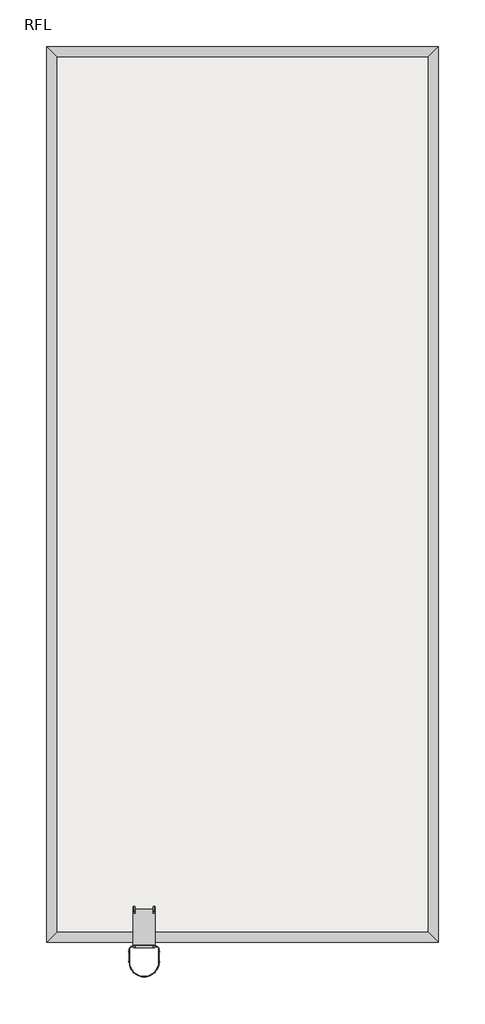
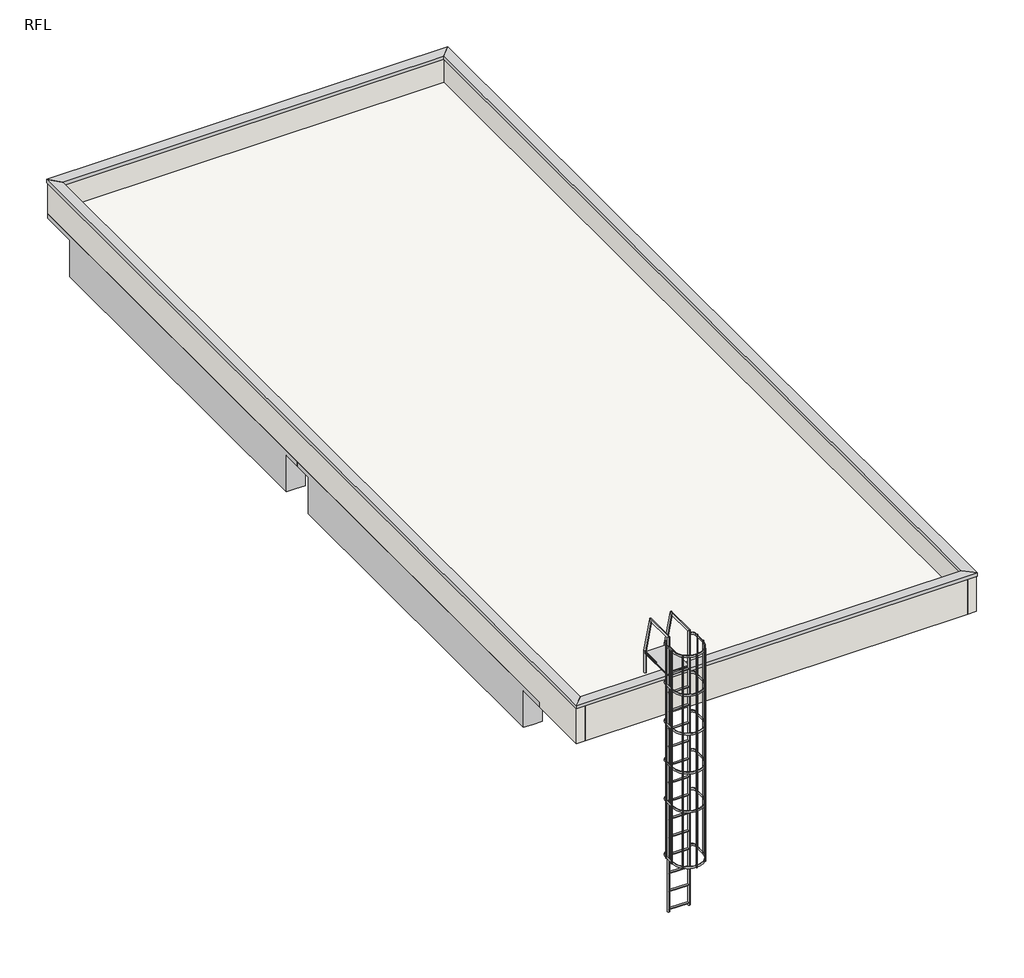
# One storey: 10 beams, 4 walls, 2 proxies, 2 slabs.
"""IFC4 building model written with IfcOpenShell, lengths in millimetres."""

from ifc_helpers import new_model, si_unit, frame, origin, place, context, project, spatial, polyline, outline, extrude, faceted_brep, transform, mapped, element, save
from components import generic_models_01cd3eca

model = new_model("IFC4")

# Units and contexts
model_context = context("Model", 3, world=origin())
ifc_project = project(units=[si_unit("LENGTHUNIT", "METRE", prefix="MILLI")], contexts=[model_context])

# Site, building, storey
site = spatial("IfcSite", under=ifc_project)
building = spatial("IfcBuilding", under=site)
storey = spatial("IfcBuildingStorey", under=building, Name="RFL", Elevation=20750.0)

# Beams
placement = place(None, origin())
element("IfcBeam", 1, ObjectType="営_RC梁 : PHRG2 350*750", at=placement, inside=storey, context=model_context, shape_type="SweptSolid", body=[
    extrude(outline(polyline([(32420.0, 7825.0000006), (32420.0, 7630.0), (32325.0, 7630.0), (32325.0, 7825.0000006), (32420.0, 7825.0000006)])), frame((0.0, 0.0, 20650.0), z_axis=(0.0, 0.0, 1.0), x_axis=(1.0, 0.0, 0.0)), (0.0, 0.0, 1.0), 100.0),
    extrude(outline(polyline([(25370.0, 7630.0), (25370.0, 8000.0), (31680.0, 8000.0), (31680.0, 7630.0), (25370.0, 7630.0)])), frame((0.0, 0.0, 19900.0), z_axis=(0.0, 0.0, 1.0), x_axis=(1.0, 0.0, 0.0)), (0.0, 0.0, 1.0), 700.0),
])
element("IfcBeam", 2, ObjectType="営_RC梁 : PHRG1 350*750", at=placement, inside=storey, context=model_context, shape_type="Brep", body=[
    faceted_brep([(31999.9999994, 24420.0, 20650.0), (31999.9999994, 24420.0, 20750.0), (31999.9999994, 24325.0, 20750.0), (31999.9999994, 24325.0, 20650.0), (25000.0000006, 24420.0, 20750.0), (25000.0000006, 24420.0, 20650.0), (25000.0000006, 24325.0, 20650.0), (25000.0000006, 24325.0, 20750.0), (25370.0, 24050.0, 19900.0), (28046.0, 24050.0, 19900.0), (28396.0, 24050.0, 19900.0), (31680.0, 24050.0, 19900.0), (31680.0, 24050.0, 20600.0), (28396.0, 24050.0, 20600.0), (28046.0, 24050.0, 20600.0), (25370.0, 24050.0, 20600.0), (31680.0, 24420.0, 19900.0), (31680.0, 24250.0, 19900.0), (25370.0, 24250.0, 19900.0), (25370.0, 24420.0, 19900.0), (31680.0, 24420.0, 20650.0), (25370.0, 24420.0, 20650.0), (31680.0, 24325.0, 20650.0), (31680.0, 24325.0, 20600.0), (25370.0, 24325.0, 20600.0), (25370.0, 24325.0, 20650.0)], [[[0, 1, 2, 3]], [[4, 5, 6, 7]], [[8, 9, 10, 11, 12, 13, 14, 15]], [[16, 17, 11, 10, 9, 8, 18, 19]], [[4, 1, 0, 20, 16, 19, 21, 5]], [[1, 4, 7, 2]], [[11, 17, 16, 20, 22, 23, 12]], [[20, 0, 3, 22]], [[19, 18, 8, 15, 24, 25, 21]], [[5, 21, 25, 6]], [[23, 24, 15, 14, 13, 12]], [[24, 23, 22, 3, 2, 7, 6, 25]]]),
])
element("IfcBeam", 3, ObjectType="営_RC梁 : PHRG12 350*750", at=placement, inside=storey, context=model_context, shape_type="Brep", body=[
    faceted_brep([(25000.0, 15630.0, 19900.0), (25000.0, 15630.0, 20600.0), (25000.0, 15630.0, 20650.0), (25000.0, 16000.0, 20650.0), (25000.0, 16000.0, 20750.0), (25000.0, 7825.0, 20750.0), (25000.0, 7825.0, 20650.0), (25000.0, 8370.0, 20650.0), (25000.0, 8370.0, 20600.0), (25000.0, 8370.0, 20500.0), (25000.0, 8370.0, 19900.0), (25000.0, 8430.0, 19900.0), (25000.0, 10575.0, 19900.0), (25000.0, 10925.0, 19900.0), (25000.0, 13325.0, 19900.0), (25000.0, 13675.0, 19900.0), (24630.0, 15630.0, 19900.0), (24800.0, 15630.0, 19900.0), (24800.0, 8370.0, 19900.0), (24630.0, 8370.0, 19900.0), (24630.0, 15630.0, 20650.0), (24630.0, 8370.0, 20650.0), (24630.0, 7825.0, 20650.0), (24630.0, 7825.0, 20750.0), (24630.0, 16000.0, 20750.0), (24630.0, 16000.0, 20650.0), (24715.0, 16000.0, 20750.0), (24715.0, 7825.0, 20750.0), (24800.0, 7825.0, 20750.0), (24715.0, 16000.0, 20650.0), (24800.0, 7825.0, 20650.0), (24715.0, 7825.0, 20650.0)], [[[0, 1, 2, 3, 4, 5, 6, 7, 8, 9, 10, 11, 12, 13, 14, 15]], [[16, 17, 0, 15, 14, 13, 12, 11, 10, 18, 19]], [[20, 16, 19, 21, 22, 23, 24, 25]], [[5, 4, 26, 24, 23, 27, 28]], [[20, 2, 1, 0, 17, 16]], [[2, 20, 25, 29, 3]], [[7, 21, 19, 18, 10, 9, 8]], [[21, 7, 6, 30, 31, 22]], [[24, 26, 4, 3, 29, 25]], [[5, 28, 27, 23, 22, 31, 30, 6]]]),
])
element("IfcBeam", 4, ObjectType="営_RC梁 : PHRG12 350*750", at=placement, inside=storey, context=model_context, shape_type="Brep", body=[
    faceted_brep([(25000.0, 24420.0, 20650.0), (25000.0, 24420.0, 20750.0), (25000.0, 24325.0, 20750.0), (25000.0, 24325.0, 20650.0), (25000.0, 16370.0, 19900.0), (24800.0, 16370.0, 19900.0), (24630.0, 16370.0, 19900.0), (24630.0, 23680.0, 19900.0), (24800.0, 23680.0, 19900.0), (25000.0, 23680.0, 19900.0), (24630.0, 16370.0, 20650.0), (24630.0, 16000.0, 20650.0), (24630.0, 16000.0, 20750.0), (24630.0, 24420.0, 20750.0), (24630.0, 24420.0, 20650.0), (24630.0, 23680.0, 20650.0), (24800.0, 24420.0, 20750.0), (24715.0, 16000.0, 20750.0), (24715.0, 24325.0, 20750.0), (25000.0, 16370.0, 20600.0), (24715.0, 16370.0, 20600.0), (24715.0, 16370.0, 20650.0), (24715.0, 16000.0, 20650.0), (24715.0, 23680.0, 20650.0), (24715.0, 23680.0, 20600.0), (25000.0, 23680.0, 20600.0), (24715.0, 24325.0, 20650.0)], [[[0, 1, 2, 3]], [[4, 5, 6, 7, 8, 9]], [[6, 10, 11, 12, 13, 14, 15, 7]], [[1, 16, 13, 12, 17, 18, 2]], [[13, 16, 1, 0, 14]], [[6, 5, 4, 19, 20, 21, 10]], [[11, 10, 21, 22]], [[9, 8, 7, 15, 23, 24, 25]], [[15, 14, 0, 3, 26, 23]], [[12, 11, 22, 17]], [[24, 20, 19, 25]], [[20, 24, 23, 26, 18, 17, 22, 21]], [[18, 26, 3, 2]], [[4, 9, 25, 19]]]),
])
element("IfcBeam", 5, ObjectType="営_RC梁 : PHRG11 350*750", at=placement, inside=storey, context=model_context, shape_type="Brep", body=[
    faceted_brep([(32420.0, 15824.9999994, 20750.0), (32420.0, 15824.9999994, 20650.0), (32325.0, 15824.9999994, 20650.0), (32325.0, 15824.9999994, 20750.0), (32420.0, 7825.0000006, 20650.0), (32420.0, 7825.0000006, 20750.0), (32325.0, 7825.0000006, 20750.0), (32325.0, 7825.0000006, 20650.0), (32420.0, 8370.0, 20650.0), (32420.0, 8370.0, 19900.0), (32420.0, 15630.0, 19900.0), (32420.0, 15630.0, 20650.0), (32050.0, 15630.0, 19900.0), (32250.0, 15630.0, 19900.0), (32250.0, 8370.0, 19900.0), (32050.0, 8370.0, 19900.0), (32050.0, 10575.0, 19900.0), (32050.0, 10925.0, 19900.0), (32050.0, 13325.0, 19900.0), (32050.0, 13675.0, 19900.0), (32050.0, 8370.0, 20600.0), (32050.0, 10575.0, 20600.0), (32050.0, 10925.0, 20600.0), (32050.0, 13325.0, 20600.0), (32050.0, 13675.0, 20600.0), (32050.0, 15630.0, 20600.0), (32325.0, 15630.0, 20600.0), (32325.0, 15630.0, 20650.0), (32325.0, 8370.0, 20650.0), (32325.0, 8370.0, 20600.0)], [[[0, 1, 2, 3]], [[4, 5, 6, 7]], [[0, 5, 4, 8, 9, 10, 11, 1]], [[12, 13, 10, 9, 14, 15, 16, 17, 18, 19]], [[12, 19, 18, 17, 16, 15, 20, 21, 22, 23, 24, 25]], [[5, 0, 3, 6]], [[10, 13, 12, 25, 26, 27, 11]], [[1, 11, 27, 2]], [[15, 14, 9, 8, 28, 29, 20]], [[8, 4, 7, 28]], [[29, 26, 25, 24, 23, 22, 21, 20]], [[26, 29, 28, 7, 6, 3, 2, 27]]]),
])
element("IfcBeam", 6, ObjectType="営_RC梁 : PHRG11 350*750", at=placement, inside=storey, context=model_context, shape_type="Brep", body=[
    faceted_brep([(32420.0, 23999.9999994, 20750.0), (32420.0, 23999.9999994, 20650.0), (32325.0, 23999.9999994, 20650.0), (32325.0, 23999.9999994, 20750.0), (32420.0, 16000.0, 20650.0), (32420.0, 16000.0, 20750.0), (32325.0, 16000.0, 20750.0), (32325.0, 16000.0, 20650.0), (32420.0, 16370.0, 20650.0), (32420.0, 16370.0, 19900.0), (32420.0, 23680.0, 19900.0), (32420.0, 23680.0, 20650.0), (32250.0, 16370.0, 19900.0), (32050.0, 16370.0, 19900.0), (32050.0, 23680.0, 19900.0), (32250.0, 23680.0, 19900.0), (32050.0, 16370.0, 20600.0), (32050.0, 23680.0, 20600.0), (32325.0, 16370.0, 20650.0), (32325.0, 16370.0, 20600.0), (32325.0, 23680.0, 20600.0), (32325.0, 23680.0, 20650.0)], [[[0, 1, 2, 3]], [[4, 5, 6, 7]], [[0, 5, 4, 8, 9, 10, 11, 1]], [[9, 12, 13, 14, 15, 10]], [[14, 13, 16, 17]], [[5, 0, 3, 6]], [[13, 12, 9, 8, 18, 19, 16]], [[8, 4, 7, 18]], [[10, 15, 14, 17, 20, 21, 11]], [[1, 11, 21, 2]], [[19, 20, 17, 16]], [[20, 19, 18, 7, 6, 3, 2, 21]]]),
])
element("IfcBeam", 7, ObjectType="営_RC梁 : B2 350*750", at=placement, inside=storey, context=model_context, shape_type="Brep", body=[
    faceted_brep([(25000.0, 10575.0, 19900.0), (25505.0, 10575.0, 19900.0), (25625.0, 10575.0, 19900.0), (32050.0, 10575.0, 19900.0), (32050.0, 10575.0, 20600.0), (25625.0, 10575.0, 20600.0), (25505.0, 10575.0, 20600.0), (25000.0, 10575.0, 20600.0), (25000.0, 10925.0, 19900.0), (25505.0, 10925.0, 19900.0), (25625.0, 10925.0, 19900.0), (32050.0, 10925.0, 19900.0), (25000.0, 10925.0, 20600.0), (25505.0, 10925.0, 20600.0), (25625.0, 10925.0, 20600.0), (32050.0, 10925.0, 20600.0)], [[[0, 1, 2, 3, 4, 5, 6, 7]], [[0, 8, 9, 10, 11, 3, 2, 1]], [[11, 10, 9, 8, 12, 13, 14, 15]], [[8, 0, 7, 12]], [[3, 11, 15, 4]], [[7, 6, 5, 4, 15, 14, 13, 12]]]),
])
element("IfcBeam", 8, ObjectType="営_RC梁 : B1 350*750", at=placement, inside=storey, context=model_context, shape_type="Brep", body=[
    faceted_brep([(25000.0, 13325.0, 19900.0), (25505.0, 13325.0, 19900.0), (25625.0, 13325.0, 19900.0), (32050.0, 13325.0, 19900.0), (32050.0, 13325.0, 20600.0), (25625.0, 13325.0, 20600.0), (25505.0, 13325.0, 20600.0), (25000.0, 13325.0, 20600.0), (25000.0, 13675.0, 19900.0), (25505.0, 13675.0, 19900.0), (25625.0, 13675.0, 19900.0), (32050.0, 13675.0, 19900.0), (25000.0, 13675.0, 20600.0), (25505.0, 13675.0, 20600.0), (25625.0, 13675.0, 20600.0), (32050.0, 13675.0, 20600.0)], [[[0, 1, 2, 3, 4, 5, 6, 7]], [[0, 8, 9, 10, 11, 3, 2, 1]], [[11, 10, 9, 8, 12, 13, 14, 15]], [[8, 0, 7, 12]], [[3, 11, 15, 4]], [[7, 6, 5, 4, 15, 14, 13, 12]]]),
])
element("IfcBeam", 9, ObjectType="営_RC梁 : PHRG2 350*750", at=placement, inside=storey, context=model_context, shape_type="Brep", body=[
    faceted_brep([(25370.0, 15630.0, 19900.0), (31680.0, 15630.0, 19900.0), (31680.0, 15630.0, 20600.0), (25370.0, 15630.0, 20600.0), (25370.0, 15780.0, 19900.0), (25370.0, 16000.0, 19900.0), (28046.0, 16000.0, 19900.0), (28396.0, 16000.0, 19900.0), (31680.0, 16000.0, 19900.0), (31680.0, 15780.0, 19900.0), (25370.0, 16000.0, 20600.0), (28046.0, 16000.0, 20600.0), (28396.0, 16000.0, 20600.0), (31680.0, 16000.0, 20600.0)], [[[0, 1, 2, 3]], [[0, 4, 5, 6, 7, 8, 9, 1]], [[8, 7, 6, 5, 10, 11, 12, 13]], [[5, 4, 0, 3, 10]], [[1, 9, 8, 13, 2]], [[3, 2, 13, 12, 11, 10]]]),
])
element("IfcBeam", 10, ObjectType="営_RC梁 : B4 350*750", at=placement, inside=storey, context=model_context, shape_type="Brep", body=[
    faceted_brep([(28396.0, 16000.0, 19900.0), (28396.0, 24050.0, 19900.0), (28396.0, 24050.0, 20600.0), (28396.0, 16000.0, 20600.0), (28046.0, 24050.0, 19900.0), (28046.0, 16000.0, 19900.0), (28046.0, 16975.0, 19900.0), (28046.0, 17095.0, 19900.0), (28046.0, 19575.0, 19900.0), (28046.0, 19695.0, 19900.0), (28046.0, 16000.0, 20600.0), (28046.0, 16975.0, 20600.0), (28046.0, 17095.0, 20600.0), (28046.0, 19575.0, 20600.0), (28046.0, 19695.0, 20600.0), (28046.0, 24050.0, 20600.0)], [[[0, 1, 2, 3]], [[4, 1, 0, 5, 6, 7, 8, 9]], [[4, 9, 8, 7, 6, 5, 10, 11, 12, 13, 14, 15]], [[1, 4, 15, 2]], [[5, 0, 3, 10]], [[3, 2, 15, 14, 13, 12, 11, 10]]]),
])

# Proxies
element("IfcBuildingElementProxy", 11, Name="パラペット笠木", ObjectType="パラペット笠木", at=placement, inside=storey, context=model_context, shape_type="Brep", body=[
    faceted_brep([(24615.0, 24435.0, 21380.0), (24615.0, 24435.0, 21450.0), (24815.0, 24235.0, 21440.1428571), (24815.0, 24235.0, 21375.0), (24800.0, 24250.0, 21375.0), (24800.0, 24250.0, 21400.0), (24630.0, 24420.0, 21400.0), (24630.0, 24420.0, 21380.0), (24615.0, 6565.0, 21380.0), (24630.0, 6580.0, 21380.0), (24630.0, 6580.0, 21400.0), (24800.0, 6750.0, 21400.0), (24800.0, 6750.0, 21375.0), (24815.0, 6765.0, 21375.0), (24815.0, 6765.0, 21440.1428571), (24615.0, 6565.0, 21450.0)], [[[0, 1, 2, 3, 4, 5, 6, 7]], [[8, 9, 10, 11, 12, 13, 14, 15]], [[1, 0, 8, 15]], [[2, 1, 15, 14]], [[3, 2, 14, 13]], [[4, 3, 13, 12]], [[5, 4, 12, 11]], [[6, 5, 11, 10]], [[7, 6, 10, 9]], [[0, 7, 9, 8]]]),
    faceted_brep([(32435.0, 6565.0, 21380.0), (32420.0, 6580.0, 21380.0), (32420.0, 6580.0, 21400.0), (32250.0, 6750.0, 21400.0), (32250.0, 6750.0, 21375.0), (32235.0, 6765.0, 21375.0), (32235.0, 6765.0, 21440.1428571), (32435.0, 6565.0, 21450.0), (24615.0, 6565.0, 21380.0), (24615.0, 6565.0, 21450.0), (24815.0, 6765.0, 21440.1428571), (24815.0, 6765.0, 21375.0), (24800.0, 6750.0, 21375.0), (24800.0, 6750.0, 21400.0), (24630.0, 6580.0, 21400.0), (24630.0, 6580.0, 21380.0)], [[[0, 1, 2, 3, 4, 5, 6, 7]], [[8, 9, 10, 11, 12, 13, 14, 15]], [[1, 0, 8, 15]], [[2, 1, 15, 14]], [[3, 2, 14, 13]], [[4, 3, 13, 12]], [[5, 4, 12, 11]], [[6, 5, 11, 10]], [[7, 6, 10, 9]], [[0, 7, 9, 8]]]),
    faceted_brep([(32435.0, 24435.0, 21380.0), (32420.0, 24420.0, 21380.0), (32420.0, 24420.0, 21400.0), (32250.0, 24250.0, 21400.0), (32250.0, 24250.0, 21375.0), (32235.0, 24235.0, 21375.0), (32235.0, 24235.0, 21440.1428571), (32435.0, 24435.0, 21450.0), (32435.0, 6565.0, 21380.0), (32435.0, 6565.0, 21450.0), (32235.0, 6765.0, 21440.1428571), (32235.0, 6765.0, 21375.0), (32250.0, 6750.0, 21375.0), (32250.0, 6750.0, 21400.0), (32420.0, 6580.0, 21400.0), (32420.0, 6580.0, 21380.0)], [[[0, 1, 2, 3, 4, 5, 6, 7]], [[8, 9, 10, 11, 12, 13, 14, 15]], [[1, 0, 8, 15]], [[2, 1, 15, 14]], [[3, 2, 14, 13]], [[4, 3, 13, 12]], [[5, 4, 12, 11]], [[6, 5, 11, 10]], [[7, 6, 10, 9]], [[0, 7, 9, 8]]]),
    faceted_brep([(24615.0, 24435.0, 21380.0), (24630.0, 24420.0, 21380.0), (24630.0, 24420.0, 21400.0), (24800.0, 24250.0, 21400.0), (24800.0, 24250.0, 21375.0), (24815.0, 24235.0, 21375.0), (24815.0, 24235.0, 21440.1428571), (24615.0, 24435.0, 21450.0), (32435.0, 24435.0, 21380.0), (32435.0, 24435.0, 21450.0), (32235.0, 24235.0, 21440.1428571), (32235.0, 24235.0, 21375.0), (32250.0, 24250.0, 21375.0), (32250.0, 24250.0, 21400.0), (32420.0, 24420.0, 21400.0), (32420.0, 24420.0, 21380.0)], [[[0, 1, 2, 3, 4, 5, 6, 7]], [[8, 9, 10, 11, 12, 13, 14, 15]], [[1, 0, 8, 15]], [[2, 1, 15, 14]], [[3, 2, 14, 13]], [[4, 3, 13, 12]], [[5, 4, 12, 11]], [[6, 5, 11, 10]], [[7, 6, 10, 9]], [[0, 7, 9, 8]]]),
])
generic_models_shape = generic_models_01cd3eca(model_context)
element("IfcBuildingElementProxy", 12, Name="営_タラップ(屋上・背カゴ付) : タラップ(屋上・背カゴ付)", ObjectType="営_タラップ(屋上・背カゴ付) : タラップ(屋上・背カゴ付)", at=placement, inside=storey, context=model_context, shape_type="MappedRepresentation", body=[
    mapped(generic_models_shape, transform((26565.0, 6663.0, 20750.0), x_axis=(1.0, 0.0, 0.0), y_axis=(0.0, 1.0, 0.0), z_axis=(0.0, 0.0, 1.0))),
])

# Slabs
element("IfcSlab", 13, ObjectType="(外床)防水仕上げ", at=placement, inside=storey, context=model_context, shape_type="SweptSolid", body=[
    extrude(outline(polyline([(32250.0, 24250.0), (32250.0, 6750.0), (24790.0, 6750.0), (24790.0, 24250.0), (32250.0, 24250.0)])), frame((0.0, 0.0, 20750.0), z_axis=(0.0, 0.0, 1.0), x_axis=(1.0, 0.0, 0.0)), (0.0, 0.0, 1.0), 140.0),
])
element("IfcSlab", 14, ObjectType="(RC)150", at=placement, inside=storey, context=model_context, shape_type="Brep", body=[
    faceted_brep([(32325.0, 6675.0, 20600.0), (24715.0, 6675.0, 20600.0), (24715.0, 6750.0, 20600.0), (24715.0, 7630.0, 20600.0), (25370.0, 7630.0, 20600.0), (25370.0, 8000.0, 20600.0), (25370.0, 8370.0, 20600.0), (25000.0, 8370.0, 20600.0), (25000.0, 10575.0, 20600.0), (25000.0, 10925.0, 20600.0), (25000.0, 13325.0, 20600.0), (25000.0, 13675.0, 20600.0), (25000.0, 15630.0, 20600.0), (25370.0, 15630.0, 20600.0), (25370.0, 16000.0, 20600.0), (25370.0, 16370.0, 20600.0), (25000.0, 16370.0, 20600.0), (24715.0, 16370.0, 20600.0), (24715.0, 23680.0, 20600.0), (25000.0, 23680.0, 20600.0), (25370.0, 23680.0, 20600.0), (25370.0, 24050.0, 20600.0), (25370.0, 24325.0, 20600.0), (31680.0, 24325.0, 20600.0), (31680.0, 24050.0, 20600.0), (31680.0, 23680.0, 20600.0), (32050.0, 23680.0, 20600.0), (32325.0, 23680.0, 20600.0), (32325.0, 16370.0, 20600.0), (32050.0, 16370.0, 20600.0), (31680.0, 16370.0, 20600.0), (31680.0, 16000.0, 20600.0), (31680.0, 15630.0, 20600.0), (32050.0, 15630.0, 20600.0), (32325.0, 15630.0, 20600.0), (32325.0, 8370.0, 20600.0), (32050.0, 8370.0, 20600.0), (31680.0, 8370.0, 20600.0), (31680.0, 8000.0, 20600.0), (31680.0, 7630.0, 20600.0), (32325.0, 7630.0, 20600.0), (32325.0, 6750.0, 20600.0), (32325.0, 6675.0, 20750.0), (32325.0, 7630.0, 20750.0), (32325.0, 7825.0000006, 20750.0), (32325.0, 15824.9999994, 20750.0), (32325.0, 16000.0, 20750.0), (32325.0, 23999.9999994, 20750.0), (32325.0, 24250.0, 20750.0), (32325.0, 24325.0, 20750.0), (31999.9999994, 24325.0, 20750.0), (25000.0000006, 24325.0, 20750.0), (24715.0, 24325.0, 20750.0), (24715.0, 16000.0, 20750.0), (25000.0, 16000.0, 20750.0), (25000.0, 7825.0, 20750.0), (24715.0, 7825.0, 20750.0), (24715.0, 6675.0, 20750.0), (24800.0, 6675.0, 20750.0), (32250.0, 6675.0, 20750.0), (32325.0, 6675.0, 20650.0), (32325.0, 7630.0, 20650.0), (32325.0, 7825.0000006, 20650.0), (32325.0, 8370.0, 20650.0), (32325.0, 15630.0, 20650.0), (32325.0, 15824.9999994, 20650.0), (32325.0, 16000.0, 20650.0), (32325.0, 16370.0, 20650.0), (32325.0, 23680.0, 20650.0), (32325.0, 23999.9999994, 20650.0), (32325.0, 24250.0, 20650.0), (32325.0, 24325.0, 20650.0), (24715.0, 6675.0, 20650.0), (24715.0, 7825.0, 20650.0), (24715.0, 7630.0, 20650.0), (24715.0, 16370.0, 20650.0), (24715.0, 16000.0, 20650.0), (24715.0, 24325.0, 20650.0), (24715.0, 23680.0, 20650.0), (31999.9999994, 24325.0, 20650.0), (31680.0, 24325.0, 20650.0), (25370.0, 24325.0, 20650.0), (25000.0000006, 24325.0, 20650.0), (25370.0, 15630.0, 20650.0), (25370.0, 16370.0, 20650.0), (25000.0, 15630.0, 20650.0), (25000.0, 16000.0, 20650.0), (31680.0, 15630.0, 20650.0), (31680.0, 16370.0, 20650.0), (25370.0, 23680.0, 20650.0), (31680.0, 23680.0, 20650.0), (25370.0, 7630.0, 20650.0), (25370.0, 8370.0, 20650.0), (25000.0, 8370.0, 20650.0), (25000.0, 7825.0, 20650.0), (31680.0, 7630.0, 20650.0), (31680.0, 8370.0, 20650.0)], [[[0, 1, 2, 3, 4, 5, 6, 7, 8, 9, 10, 11, 12, 13, 14, 15, 16, 17, 18, 19, 20, 21, 22, 23, 24, 25, 26, 27, 28, 29, 30, 31, 32, 33, 34, 35, 36, 37, 38, 39, 40, 41]], [[42, 43, 44, 45, 46, 47, 48, 49, 50, 51, 52, 53, 54, 55, 56, 57, 58, 59]], [[49, 48, 47, 46, 45, 44, 43, 42, 60, 0, 41, 40, 61, 62, 63, 35, 34, 64, 65, 66, 67, 28, 27, 68, 69, 70, 71]], [[1, 0, 60, 42, 59, 58, 57, 72]], [[1, 72, 57, 56, 73, 74, 3, 2]], [[17, 75, 76, 53, 52, 77, 78, 18]], [[52, 51, 50, 49, 71, 79, 80, 23, 22, 81, 82, 77]], [[83, 84, 15, 14, 13]], [[83, 13, 12, 85]], [[15, 84, 75, 17, 16]], [[84, 83, 85, 86, 76, 75]], [[32, 87, 64, 34, 33]], [[88, 87, 32, 31, 30]], [[88, 30, 29, 28, 67]], [[87, 88, 67, 66, 65, 64]], [[20, 89, 81, 22, 21]], [[89, 20, 19, 18, 78]], [[81, 89, 78, 77, 82]], [[25, 90, 68, 27, 26]], [[90, 25, 24, 23, 80]], [[68, 90, 80, 79, 71, 70, 69]], [[91, 92, 6, 5, 4]], [[91, 4, 3, 74]], [[6, 92, 93, 7]], [[92, 91, 74, 73, 94, 93]], [[39, 95, 61, 40]], [[96, 95, 39, 38, 37]], [[96, 37, 36, 35, 63]], [[95, 96, 63, 62, 61]], [[54, 86, 85, 12, 11, 10, 9, 8, 7, 93, 94, 55]], [[86, 54, 53, 76]], [[55, 94, 73, 56]]]),
])

# Walls
element("IfcWall", 15, ObjectType="(外壁)RC150+20", at=placement, inside=storey, context=model_context, shape_type="Brep", body=[
    faceted_brep([(24630.0, 6580.0, 21400.0), (24630.0, 24420.0, 21400.0), (24630.0, 24420.0, 20750.0), (24630.0, 16000.0, 20750.0), (24630.0, 7825.0, 20750.0), (24630.0, 7825.0, 20650.0), (24630.0, 7630.0, 20650.0), (24630.0, 6750.0, 20650.0), (24630.0, 6580.0, 20650.0), (24800.0, 24420.0, 21400.0), (24800.0, 24250.0, 21400.0), (24800.0, 6750.0, 21400.0), (24800.0, 6580.0, 21400.0), (24800.0, 6580.0, 20650.0), (24800.0, 6675.0, 20650.0), (24800.0, 6750.0, 20650.0), (24800.0, 7630.0, 20650.0), (24800.0, 7825.0, 20650.0), (24800.0, 7825.0, 20750.0), (24800.0, 24250.0, 20750.0), (24800.0, 24420.0, 20750.0)], [[[0, 1, 2, 3, 4, 5, 6, 7, 8]], [[9, 10, 11, 12, 13, 14, 15, 16, 17, 18, 19, 20]], [[13, 8, 7, 6, 5, 17, 16, 15, 14]], [[1, 0, 12, 11, 10, 9]], [[1, 9, 20, 2]], [[0, 8, 13, 12]], [[18, 4, 3, 2, 20, 19]], [[4, 18, 17, 5]]]),
])
element("IfcWall", 16, ObjectType="(外壁)RC150+20", at=placement, inside=storey, context=model_context, shape_type="SweptSolid", body=[
    extrude(outline(polyline([(6580.0, 20650.0), (6580.0, 21400.0), (6750.0, 21400.0), (6750.0, 20750.0), (6675.0, 20750.0), (6675.0, 20650.0), (6580.0, 20650.0)])), frame((24800.0, 0.0, 0.0), z_axis=(1.0, 0.0, 0.0), x_axis=(0.0, 1.0, 0.0)), (0.0, 0.0, 1.0), 7450.0),
])
element("IfcWall", 17, ObjectType="(外壁)RC150+20", at=placement, inside=storey, context=model_context, shape_type="Brep", body=[
    faceted_brep([(32420.0, 24250.0, 21400.0), (32250.0, 24250.0, 21400.0), (24800.0, 24250.0, 21400.0), (24800.0, 24250.0, 20750.0), (32325.0, 24250.0, 20750.0), (32325.0, 24250.0, 20650.0), (32420.0, 24250.0, 20650.0), (24800.0, 24420.0, 21400.0), (32420.0, 24420.0, 21400.0), (32420.0, 24420.0, 20650.0), (31999.9999994, 24420.0, 20650.0), (31999.9999994, 24420.0, 20750.0), (25000.0, 24420.0, 20750.0), (24800.0, 24420.0, 20750.0), (32325.0, 24325.0, 20650.0), (31999.9999994, 24325.0, 20650.0), (32325.0, 24325.0, 20750.0), (31999.9999994, 24325.0, 20750.0)], [[[0, 1, 2, 3, 4, 5, 6]], [[7, 8, 9, 10, 11, 12, 13]], [[6, 5, 14, 15, 10, 9]], [[2, 1, 0, 8, 7]], [[16, 4, 3, 13, 12, 11, 17]], [[14, 16, 17, 15]], [[2, 7, 13, 3]], [[4, 16, 14, 5]], [[0, 6, 9, 8]], [[17, 11, 10, 15]]]),
])
element("IfcWall", 18, ObjectType="(外壁)RC150+20", at=placement, inside=storey, context=model_context, shape_type="Brep", body=[
    faceted_brep([(32250.0, 6580.0, 21400.0), (32250.0, 6750.0, 21400.0), (32250.0, 24250.0, 21400.0), (32250.0, 24250.0, 20650.0), (32250.0, 23999.9999994, 20650.0), (32250.0, 23999.9999994, 20750.0), (32250.0, 16000.0, 20750.0), (32250.0, 16000.0, 20650.0), (32250.0, 15824.9999994, 20650.0), (32250.0, 15824.9999994, 20750.0), (32250.0, 7630.0, 20750.0), (32250.0, 7630.0, 20650.0), (32250.0, 6675.0, 20650.0), (32250.0, 6580.0, 20650.0), (32420.0, 24250.0, 21400.0), (32420.0, 6580.0, 21400.0), (32420.0, 6580.0, 20650.0), (32420.0, 7630.0, 20650.0), (32420.0, 7630.0, 20750.0), (32420.0, 7825.0000006, 20750.0), (32420.0, 15824.9999994, 20750.0), (32420.0, 15824.9999994, 20650.0), (32420.0, 16000.0, 20650.0), (32420.0, 16000.0, 20750.0), (32420.0, 23999.9999994, 20750.0), (32420.0, 23999.9999994, 20650.0), (32420.0, 24250.0, 20650.0), (32325.0, 24250.0, 20650.0), (32325.0, 23999.9999994, 20650.0), (32325.0, 7630.0, 20650.0), (32325.0, 15824.9999994, 20650.0), (32325.0, 16000.0, 20650.0), (32325.0, 7630.0, 20750.0), (32325.0, 15824.9999994, 20750.0), (32325.0, 23999.9999994, 20750.0), (32325.0, 16000.0, 20750.0)], [[[0, 1, 2, 3, 4, 5, 6, 7, 8, 9, 10, 11, 12, 13]], [[14, 15, 16, 17, 18, 19, 20, 21, 22, 23, 24, 25, 26]], [[3, 27, 26, 25, 28, 4]], [[16, 13, 12, 11, 29, 17]], [[21, 30, 8, 7, 31, 22]], [[2, 1, 0, 15, 14]], [[3, 2, 14, 26, 27]], [[0, 13, 16, 15]], [[20, 19, 18, 32, 10, 9, 33]], [[11, 10, 32, 18, 17, 29]], [[24, 34, 5, 4, 28, 25]], [[5, 34, 24, 23, 35, 6]], [[20, 33, 9, 8, 30, 21]], [[6, 35, 23, 22, 31, 7]]]),
])

save(model, "model.ifc")
